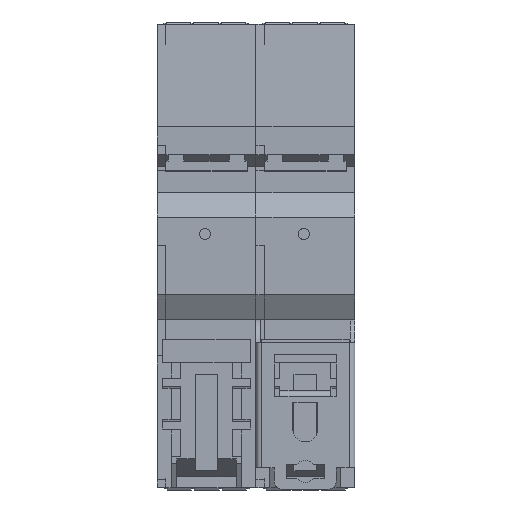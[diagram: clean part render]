
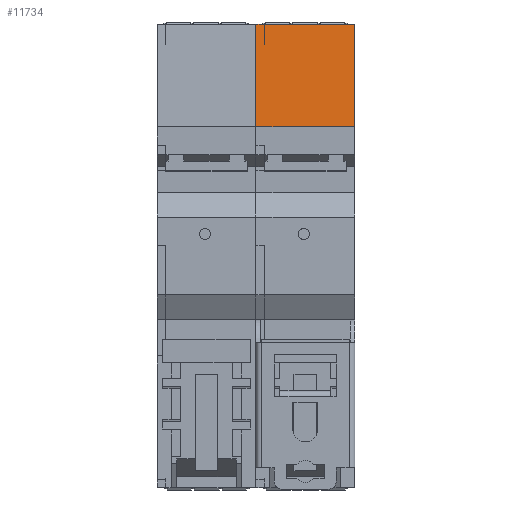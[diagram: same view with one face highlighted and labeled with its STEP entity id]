
A CAD part, front view. The second image highlights one B-rep face of the part: STEP entity #11734.
In plain terms, the highlighted planar face has unit normal (0, -0.997, 0.077).
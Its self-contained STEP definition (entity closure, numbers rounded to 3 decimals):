
#365 = LINE ( 'NONE', #41167, #40296 ) ;
#2139 = LINE ( 'NONE', #14084, #21083 ) ;
#2144 = LINE ( 'NONE', #29768, #3768 ) ;
#3094 = EDGE_CURVE ( 'NONE', #40190, #17323, #42598, .T. ) ;
#3233 = EDGE_CURVE ( 'NONE', #33171, #17323, #2139, .T. ) ;
#3768 = VECTOR ( 'NONE', #23016, 1000. ) ;
#4373 = EDGE_CURVE ( 'NONE', #11213, #19882, #365, .T. ) ;
#6431 = ORIENTED_EDGE ( 'NONE', *, *, #3094, .T. ) ;
#7108 = DIRECTION ( 'NONE',  ( 0., -0.077, -0.997 ) ) ;
#9388 = DIRECTION ( 'NONE',  ( 0., -0.997, 0.077 ) ) ;
#9530 = PLANE ( 'NONE',  #16506 ) ;
#11213 = VERTEX_POINT ( 'NONE', #23775 ) ;
#11513 = EDGE_LOOP ( 'NONE', ( #17856, #37773, #23831, #20488, #6431 ) ) ;
#11734 = ADVANCED_FACE ( 'NONE', ( #43724 ), #9530, .T. ) ;
#13799 = DIRECTION ( 'NONE',  ( 1., 0., 0. ) ) ;
#14084 = CARTESIAN_POINT ( 'NONE',  ( 0., -15.5, 41. ) ) ;
#16506 = AXIS2_PLACEMENT_3D ( 'NONE', #43884, #9388, #37236 ) ;
#16997 = CARTESIAN_POINT ( 'NONE',  ( -17.5, -15.5, 41. ) ) ;
#17323 = VERTEX_POINT ( 'NONE', #20737 ) ;
#17856 = ORIENTED_EDGE ( 'NONE', *, *, #3233, .F. ) ;
#19882 = VERTEX_POINT ( 'NONE', #29737 ) ;
#20488 = ORIENTED_EDGE ( 'NONE', *, *, #29631, .T. ) ;
#20737 = CARTESIAN_POINT ( 'NONE',  ( 0., -16.9, 22.9 ) ) ;
#21083 = VECTOR ( 'NONE', #7108, 1000. ) ;
#21957 = CARTESIAN_POINT ( 'NONE',  ( 0., -15.5, 41. ) ) ;
#23016 = DIRECTION ( 'NONE',  ( 1., 0., 0. ) ) ;
#23775 = CARTESIAN_POINT ( 'NONE',  ( -17.5, -15.5, 41. ) ) ;
#23831 = ORIENTED_EDGE ( 'NONE', *, *, #4373, .F. ) ;
#24104 = DIRECTION ( 'NONE',  ( 0., -0.077, -0.997 ) ) ;
#27324 = LINE ( 'NONE', #16997, #41268 ) ;
#27814 = CARTESIAN_POINT ( 'NONE',  ( -17.5, -16.9, 22.9 ) ) ;
#28055 = VECTOR ( 'NONE', #37563, 1000. ) ;
#29631 = EDGE_CURVE ( 'NONE', #11213, #40190, #27324, .T. ) ;
#29737 = CARTESIAN_POINT ( 'NONE',  ( -16., -15.5, 41. ) ) ;
#29768 = CARTESIAN_POINT ( 'NONE',  ( -17.5, -15.5, 41. ) ) ;
#31940 = EDGE_CURVE ( 'NONE', #19882, #33171, #2144, .T. ) ;
#33171 = VERTEX_POINT ( 'NONE', #21957 ) ;
#37236 = DIRECTION ( 'NONE',  ( 0., -0.077, -0.997 ) ) ;
#37563 = DIRECTION ( 'NONE',  ( 1., 0., 0. ) ) ;
#37773 = ORIENTED_EDGE ( 'NONE', *, *, #31940, .F. ) ;
#40190 = VERTEX_POINT ( 'NONE', #27814 ) ;
#40296 = VECTOR ( 'NONE', #13799, 1000. ) ;
#41167 = CARTESIAN_POINT ( 'NONE',  ( -17.5, -15.5, 41. ) ) ;
#41268 = VECTOR ( 'NONE', #24104, 1000. ) ;
#42598 = LINE ( 'NONE', #44188, #28055 ) ;
#43724 = FACE_OUTER_BOUND ( 'NONE', #11513, .T. ) ;
#43884 = CARTESIAN_POINT ( 'NONE',  ( -17.5, -15.5, 41. ) ) ;
#44188 = CARTESIAN_POINT ( 'NONE',  ( -17.5, -16.9, 22.9 ) ) ;
